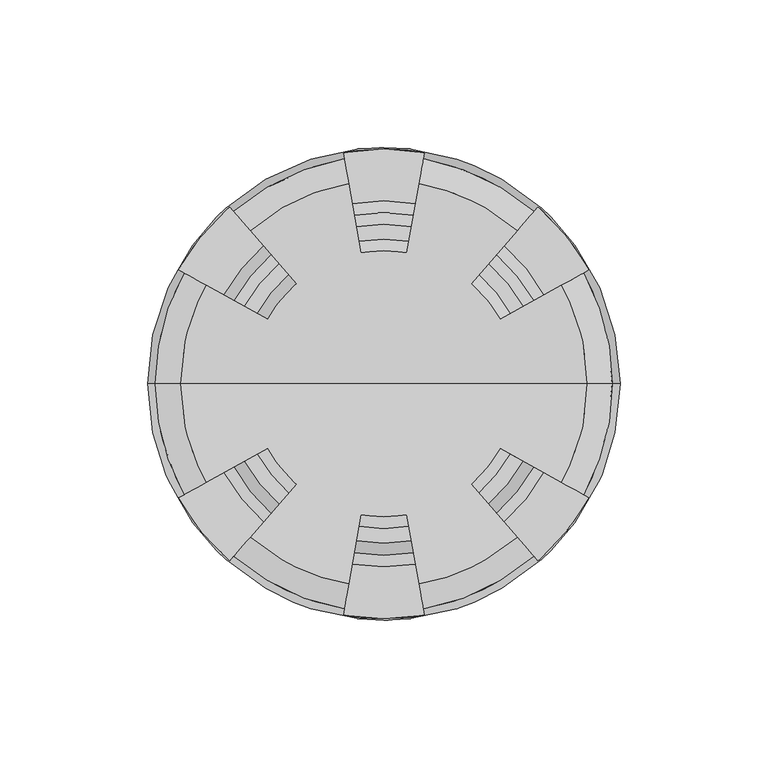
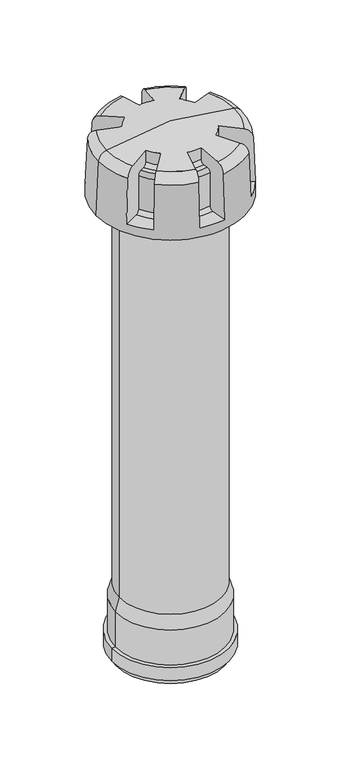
"""IFC4 building model written with IfcOpenShell, lengths in millimetres: proxy geometry, GRAF Deaeration end DN110 : GRAF Deaeration end DN110."""

from ifc_helpers import new_model, si_unit, point, frame, origin, place, context, project, spatial, polyline, circle_curve, ellipse_curve, trimmed, source, transform, mapped, element, save
from ifc_brep_helpers import plane_surface, cylinder_surface, revolved_surface, advanced_brep


def specialty_equipment_93227a62(model_context):
    return source(origin(), model_context, "Body", "AdvancedBrep", [
        advanced_brep(
        [(-1157.5, 0.0, 0.0), (-1098.5, 0.0, 0.0), (-1216.5, 0.0, 0.0), (-1088.7158511, 0.0, 590.173693), (-1157.5, 0.0, 600.0), (-1226.2841489, 0.0, 590.173693), (-1217.6599722, -33.3472171, 590.173693), (-1196.8578868, -21.8164329, 593.5714286), (-1187.0226563, -33.9619311, 593.5714286), (-1202.626462, -51.9120562, 590.173693), (-1169.4442421, -67.7391631, 590.173693), (-1165.314168, -44.3163489, 593.5714286), (-1149.685832, -44.3163489, 593.5714286), (-1145.5557579, -67.7391631, 590.173693), (-1112.373538, -51.9120562, 590.173693), (-1127.9773437, -33.9619311, 593.5714286), (-1118.1421132, -21.8164329, 593.5714286), (-1097.3400278, -33.3472171, 590.173693), (-1097.3400278, 33.3472171, 590.173693), (-1118.1421132, 21.8164329, 593.5714286), (-1127.9773437, 33.9619311, 593.5714286), (-1112.373538, 51.9120562, 590.173693), (-1145.5557579, 67.7391631, 590.173693), (-1149.685832, 44.3163489, 593.5714286), (-1165.314168, 44.3163489, 593.5714286), (-1169.4442421, 67.7391631, 590.173693), (-1202.626462, 51.9120562, 590.173693), (-1187.0226563, 33.9619311, 593.5714286), (-1196.8578868, 21.8164329, 593.5714286), (-1217.6599722, 33.3472171, 590.173693), (-1080.1395031, 0.0, 580.7085703), (-1089.8389848, -37.5051131, 580.7085703), (-1234.8604969, 0.0, 580.7085703), (-1225.1610152, -37.5051131, 580.7085703), (-1208.2530525, -58.3847082, 580.7085703), (-1170.9335093, -76.1852172, 580.7085703), (-1144.0664907, -76.1852172, 580.7085703), (-1106.7469475, -58.3847082, 580.7085703), (-1089.8389848, 37.5051131, 580.7085703), (-1225.1610152, 37.5051131, 580.7085703), (-1208.2530525, 58.3847082, 580.7085703), (-1170.9335093, 76.1852172, 580.7085703), (-1106.7469475, 58.3847082, 580.7085703), (-1144.0664907, 76.1852172, 580.7085703), (-1237.5, 0.0, 520.0), (-1077.5, 0.0, 520.0), (-1087.9106929, -38.5739828, 530.0), (-1105.3005207, -60.0486318, 530.0), (-1143.683645, -78.356443, 530.0), (-1171.316355, -78.356443, 530.0), (-1209.6994793, -60.0486318, 530.0), (-1227.0893071, -38.5739828, 530.0), (-1227.0893071, 38.5739828, 530.0), (-1209.6994793, 60.0486318, 530.0), (-1171.316355, 78.356443, 530.0), (-1143.683645, 78.356443, 530.0), (-1105.3005207, 60.0486318, 530.0), (-1087.9106929, 38.5739828, 530.0), (-1212.5, 0.0, 520.0), (-1102.5, 0.0, 520.0), (-1212.5, 0.0, 76.0), (-1102.5, 0.0, 76.0), (-1216.5, 0.0, 61.0), (-1098.5, 0.0, 61.0), (-1216.5, 0.0, 21.0), (-1098.5, 0.0, 21.0), (-1220.5, 0.0, 21.0), (-1094.5, 0.0, 21.0), (-1220.5, 0.0, 6.0), (-1094.5, 0.0, 6.0), (-1216.5, 0.0, 6.0), (-1098.5, 0.0, 6.0), (-1198.1756598, 46.791994, 530.0), (-1195.5514237, 43.7731557, 534.0), (-1195.5514237, 43.7731557, 572.0), (-1192.9271876, 40.7543173, 576.0), (-1189.6468924, 36.9807694, 576.0), (-1187.0226563, 33.9619311, 580.0), (-1196.8578868, 21.8164329, 580.0), (-1200.3563656, 23.7556714, 576.0), (-1204.7294642, 26.1797195, 576.0), (-1208.227943, 28.118958, 572.0), (-1208.227943, 28.118958, 534.0), (-1211.7264218, 30.0581965, 530.0), (-1187.0226563, -33.9619311, 580.0), (-1189.6468924, -36.9807694, 576.0), (-1192.9271876, -40.7543173, 576.0), (-1195.5514237, -43.7731557, 572.0), (-1195.5514237, -43.7731557, 534.0), (-1198.1756598, -46.791994, 530.0), (-1211.7264218, -30.0581965, 530.0), (-1208.227943, -28.118958, 534.0), (-1208.227943, -28.118958, 572.0), (-1204.7294642, -26.1797195, 576.0), (-1200.3563656, -23.7556714, 576.0), (-1196.8578868, -21.8164329, 580.0), (-1149.685832, -44.3163489, 580.0), (-1148.9912393, -48.2555799, 576.0), (-1148.1229984, -53.1796187, 576.0), (-1147.4284057, -57.1188497, 572.0), (-1147.4284057, -57.1188497, 534.0), (-1146.733813, -61.0580807, 530.0), (-1168.266187, -61.0580807, 530.0), (-1167.5715943, -57.1188497, 534.0), (-1167.5715943, -57.1188497, 572.0), (-1166.8770016, -53.1796187, 576.0), (-1166.0087607, -48.2555799, 576.0), (-1165.314168, -44.3163489, 580.0), (-1118.1421132, -21.8164329, 580.0), (-1114.6436344, -23.7556714, 576.0), (-1110.2705358, -26.1797195, 576.0), (-1106.772057, -28.118958, 572.0), (-1106.772057, -28.118958, 534.0), (-1103.2735782, -30.0581965, 530.0), (-1116.8243402, -46.791994, 530.0), (-1119.4485763, -43.7731557, 534.0), (-1119.4485763, -43.7731557, 572.0), (-1122.0728124, -40.7543173, 576.0), (-1125.3531076, -36.9807694, 576.0), (-1127.9773437, -33.9619311, 580.0), (-1103.2735782, 30.0581965, 530.0), (-1106.772057, 28.118958, 534.0), (-1106.772057, 28.118958, 572.0), (-1110.2705358, 26.1797195, 576.0), (-1114.6436344, 23.7556714, 576.0), (-1118.1421132, 21.8164329, 580.0), (-1127.9773437, 33.9619311, 580.0), (-1125.3531076, 36.9807694, 576.0), (-1122.0728124, 40.7543173, 576.0), (-1119.4485763, 43.7731557, 572.0), (-1119.4485763, 43.7731557, 534.0), (-1116.8243402, 46.791994, 530.0), (-1146.733813, 61.0580807, 530.0), (-1147.4284057, 57.1188497, 534.0), (-1147.4284057, 57.1188497, 572.0), (-1148.1229984, 53.1796187, 576.0), (-1148.9912393, 48.2555799, 576.0), (-1149.685832, 44.3163489, 580.0), (-1165.314168, 44.3163489, 580.0), (-1166.0087607, 48.2555799, 576.0), (-1166.8770016, 53.1796187, 576.0), (-1167.5715943, 57.1188497, 572.0), (-1167.5715943, 57.1188497, 534.0), (-1168.266187, 61.0580807, 530.0)],
        [
            (0, 1),
            (1, 2, circle_curve(frame((-1157.5, 0.0, 0.0), z_axis=(0.0, 0.0, -1.0), x_axis=(1.0, 0.0, 0.0)), 59.0)),
            (2, 0),
            (2, 1, circle_curve(frame((-1157.5, 0.0, 0.0), z_axis=(0.0, 0.0, -1.0), x_axis=(1.0, 0.0, 0.0)), 59.0)),
            (3, 4),
            (4, 5),
            (5, 6, circle_curve(frame((-1157.5, 0.0, 590.173693), z_axis=(0.0, 0.0, 1.0), x_axis=(1.0, 0.0, 0.0)), 68.7841489)),
            (6, 7),
            (7, 8, circle_curve(frame((-1157.5, 0.0, 593.5714286), z_axis=(0.0, 0.0, 1.0), x_axis=(1.0, 0.0, 0.0)), 45.0)),
            (8, 9),
            (9, 10, circle_curve(frame((-1157.5, 0.0, 590.173693), z_axis=(0.0, 0.0, 1.0), x_axis=(1.0, 0.0, 0.0)), 68.7841489)),
            (10, 11),
            (11, 12, circle_curve(frame((-1157.5, 0.0, 593.5714286), z_axis=(0.0, 0.0, 1.0), x_axis=(1.0, 0.0, 0.0)), 45.0)),
            (12, 13),
            (13, 14, circle_curve(frame((-1157.5, 0.0, 590.173693), z_axis=(0.0, 0.0, 1.0), x_axis=(1.0, 0.0, 0.0)), 68.7841489)),
            (14, 15),
            (15, 16, circle_curve(frame((-1157.5, 0.0, 593.5714286), z_axis=(0.0, 0.0, 1.0), x_axis=(1.0, 0.0, 0.0)), 45.0)),
            (16, 17),
            (17, 3, circle_curve(frame((-1157.5, 0.0, 590.173693), z_axis=(0.0, 0.0, 1.0), x_axis=(1.0, 0.0, 0.0)), 68.7841489)),
            (3, 18, circle_curve(frame((-1157.5, 0.0, 590.173693), z_axis=(0.0, 0.0, 1.0), x_axis=(1.0, 0.0, 0.0)), 68.7841489)),
            (18, 19),
            (19, 20, circle_curve(frame((-1157.5, 0.0, 593.5714286), z_axis=(0.0, 0.0, 1.0), x_axis=(1.0, 0.0, 0.0)), 45.0)),
            (20, 21),
            (21, 22, circle_curve(frame((-1157.5, 0.0, 590.173693), z_axis=(0.0, 0.0, 1.0), x_axis=(1.0, 0.0, 0.0)), 68.7841489)),
            (22, 23),
            (23, 24, circle_curve(frame((-1157.5, 0.0, 593.5714286), z_axis=(0.0, 0.0, 1.0), x_axis=(1.0, 0.0, 0.0)), 45.0)),
            (24, 25),
            (25, 26, circle_curve(frame((-1157.5, 0.0, 590.173693), z_axis=(0.0, 0.0, 1.0), x_axis=(1.0, 0.0, 0.0)), 68.7841489)),
            (26, 27),
            (27, 28, circle_curve(frame((-1157.5, 0.0, 593.5714286), z_axis=(0.0, 0.0, 1.0), x_axis=(1.0, 0.0, 0.0)), 45.0)),
            (28, 29),
            (29, 5, circle_curve(frame((-1157.5, 0.0, 590.173693), z_axis=(0.0, 0.0, 1.0), x_axis=(1.0, 0.0, 0.0)), 68.7841489)),
            (30, 3, circle_curve(frame((-1090.1300646, 0.0, 580.2741981), z_axis=(0.0, -1.0, 0.0), x_axis=(0.9990561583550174, 0.0, 0.043437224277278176)), 10.0)),
            (17, 31, circle_curve(frame((-1098.5769269, -32.6615928, 580.2741981), z_axis=(0.4848096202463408, 0.8746197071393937, 0.0), x_axis=(0.8737942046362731, -0.48435203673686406, 0.043437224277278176)), 10.0)),
            (31, 30, circle_curve(frame((-1157.5, 0.0, 580.7085703), z_axis=(0.0, 0.0, 1.0), x_axis=(1.0, 0.0, 0.0)), 77.3604969)),
            (5, 32, circle_curve(frame((-1224.8699354, 0.0, 580.2741981), z_axis=(0.0, -1.0, 0.0), x_axis=(-0.9990561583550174, 0.0, 0.043437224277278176)), 10.0)),
            (32, 33, circle_curve(frame((-1157.5, 0.0, 580.7085703), z_axis=(0.0, 0.0, 1.0), x_axis=(1.0, 0.0, 0.0)), 77.3604969)),
            (33, 6, circle_curve(frame((-1216.4230731, -32.6615928, 580.2741981), z_axis=(-0.4848096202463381, 0.8746197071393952, 0.0), x_axis=(-0.8737942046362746, -0.4843520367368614, 0.043437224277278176)), 10.0)),
            (9, 34, circle_curve(frame((-1201.6986544, -50.8447356, 580.2741981), z_axis=(0.7547095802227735, -0.6560590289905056, 0.0), x_axis=(-0.6554398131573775, -0.7539972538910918, 0.043437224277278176)), 10.0)),
            (34, 35, circle_curve(frame((-1157.5, 0.0, 580.7085703), z_axis=(0.0, 0.0, 1.0), x_axis=(1.0, 0.0, 0.0)), 77.3604969)),
            (35, 10, circle_curve(frame((-1169.1986665, -66.3464347, 580.2741981), z_axis=(-0.984807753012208, 0.17364817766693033, 0.0), x_axis=(-0.17348428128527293, -0.9838782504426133, 0.043437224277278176)), 10.0)),
            (13, 36, circle_curve(frame((-1145.8013335, -66.3464347, 580.2741981), z_axis=(0.9848077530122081, 0.17364817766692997, 0.0), x_axis=(0.17348428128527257, -0.9838782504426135, 0.043437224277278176)), 10.0)),
            (36, 37, circle_curve(frame((-1157.5, 0.0, 580.7085703), z_axis=(0.0, 0.0, 1.0), x_axis=(1.0, 0.0, 0.0)), 77.3604969)),
            (37, 14, circle_curve(frame((-1113.3013456, -50.8447356, 580.2741981), z_axis=(-0.7547095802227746, -0.6560590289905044, 0.0), x_axis=(0.6554398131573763, -0.753997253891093, 0.043437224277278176)), 10.0)),
            (30, 38, circle_curve(frame((-1157.5, 0.0, 580.7085703), z_axis=(0.0, 0.0, 1.0), x_axis=(1.0, 0.0, 0.0)), 77.3604969)),
            (38, 18, circle_curve(frame((-1098.5769269, 32.6615928, 580.2741981), z_axis=(0.48480962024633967, -0.8746197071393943, 0.0), x_axis=(0.8737942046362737, 0.48435203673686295, 0.043437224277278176)), 10.0)),
            (29, 39, circle_curve(frame((-1216.4230731, 32.6615928, 580.2741981), z_axis=(-0.48480962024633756, -0.8746197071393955, 0.0), x_axis=(-0.8737942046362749, 0.48435203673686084, 0.043437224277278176)), 10.0)),
            (39, 32, circle_curve(frame((-1157.5, 0.0, 580.7085703), z_axis=(0.0, 0.0, 1.0), x_axis=(1.0, 0.0, 0.0)), 77.3604969)),
            (40, 26, circle_curve(frame((-1201.6986544, 50.8447356, 580.2741981), z_axis=(0.754709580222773, 0.6560590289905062, 0.0), x_axis=(-0.6554398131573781, 0.7539972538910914, 0.043437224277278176)), 10.0)),
            (25, 41, circle_curve(frame((-1169.1986665, 66.3464347, 580.2741981), z_axis=(-0.9848077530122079, -0.1736481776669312, 0.0), x_axis=(-0.1734842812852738, 0.9838782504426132, 0.043437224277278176)), 10.0)),
            (41, 40, circle_curve(frame((-1157.5, 0.0, 580.7085703), z_axis=(0.0, 0.0, 1.0), x_axis=(1.0, 0.0, 0.0)), 77.3604969)),
            (21, 42, circle_curve(frame((-1113.3013456, 50.8447356, 580.2741981), z_axis=(-0.7547095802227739, 0.656059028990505, 0.0), x_axis=(0.655439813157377, 0.7539972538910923, 0.043437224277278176)), 10.0)),
            (42, 43, circle_curve(frame((-1157.5, 0.0, 580.7085703), z_axis=(0.0, 0.0, 1.0), x_axis=(1.0, 0.0, 0.0)), 77.3604969)),
            (43, 22, circle_curve(frame((-1145.8013335, 66.3464347, 580.2741981), z_axis=(0.9848077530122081, -0.17364817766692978, 0.0), x_axis=(0.17348428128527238, 0.9838782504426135, 0.043437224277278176)), 10.0)),
            (44, 45, circle_curve(frame((-1157.5, 0.0, 520.0), z_axis=(0.0, 0.0, 1.0), x_axis=(1.0, 0.0, 0.0)), 80.0)),
            (45, 30),
            (31, 46),
            (46, 47, circle_curve(frame((-1157.5, 0.0, 530.0), z_axis=(0.0, 0.0, -1.0), x_axis=(1.0, 0.0, 0.0)), 79.5652174)),
            (47, 37),
            (36, 48),
            (48, 49, circle_curve(frame((-1157.5, 0.0, 530.0), z_axis=(0.0, 0.0, -1.0), x_axis=(1.0, 0.0, 0.0)), 79.5652174)),
            (49, 35),
            (34, 50),
            (50, 51, circle_curve(frame((-1157.5, 0.0, 530.0), z_axis=(0.0, 0.0, -1.0), x_axis=(1.0, 0.0, 0.0)), 79.5652174)),
            (51, 33),
            (32, 44),
            (45, 44, circle_curve(frame((-1157.5, 0.0, 520.0), z_axis=(0.0, 0.0, 1.0), x_axis=(1.0, 0.0, 0.0)), 80.0)),
            (39, 52),
            (52, 53, circle_curve(frame((-1157.5, 0.0, 530.0), z_axis=(0.0, 0.0, -1.0), x_axis=(1.0, 0.0, 0.0)), 79.5652174)),
            (53, 40),
            (41, 54),
            (54, 55, circle_curve(frame((-1157.5, 0.0, 530.0), z_axis=(0.0, 0.0, -1.0), x_axis=(1.0, 0.0, 0.0)), 79.5652174)),
            (55, 43),
            (42, 56),
            (56, 57, circle_curve(frame((-1157.5, 0.0, 530.0), z_axis=(0.0, 0.0, -1.0), x_axis=(1.0, 0.0, 0.0)), 79.5652174)),
            (57, 38),
            (44, 58),
            (58, 59, circle_curve(frame((-1157.5, 0.0, 520.0), z_axis=(0.0, 0.0, 1.0), x_axis=(1.0, 0.0, 0.0)), 55.0)),
            (59, 45),
            (59, 58, circle_curve(frame((-1157.5, 0.0, 520.0), z_axis=(0.0, 0.0, 1.0), x_axis=(1.0, 0.0, 0.0)), 55.0)),
            (58, 60),
            (60, 61, circle_curve(frame((-1157.5, 0.0, 76.0), z_axis=(0.0, 0.0, 1.0), x_axis=(1.0, 0.0, 0.0)), 55.0)),
            (61, 59),
            (61, 60, circle_curve(frame((-1157.5, 0.0, 76.0), z_axis=(0.0, 0.0, 1.0), x_axis=(1.0, 0.0, 0.0)), 55.0)),
            (60, 62),
            (62, 63, circle_curve(frame((-1157.5, 0.0, 61.0), z_axis=(0.0, 0.0, 1.0), x_axis=(1.0, 0.0, 0.0)), 59.0)),
            (63, 61),
            (63, 62, circle_curve(frame((-1157.5, 0.0, 61.0), z_axis=(0.0, 0.0, 1.0), x_axis=(1.0, 0.0, 0.0)), 59.0)),
            (62, 64),
            (64, 65, circle_curve(frame((-1157.5, 0.0, 21.0), z_axis=(0.0, 0.0, 1.0), x_axis=(1.0, 0.0, 0.0)), 59.0)),
            (65, 63),
            (65, 64, circle_curve(frame((-1157.5, 0.0, 21.0), z_axis=(0.0, 0.0, 1.0), x_axis=(1.0, 0.0, 0.0)), 59.0)),
            (64, 66),
            (66, 67, circle_curve(frame((-1157.5, 0.0, 21.0), z_axis=(0.0, 0.0, 1.0), x_axis=(1.0, 0.0, 0.0)), 63.0)),
            (67, 65),
            (67, 66, circle_curve(frame((-1157.5, 0.0, 21.0), z_axis=(0.0, 0.0, 1.0), x_axis=(1.0, 0.0, 0.0)), 63.0)),
            (66, 68),
            (68, 69, circle_curve(frame((-1157.5, 0.0, 6.0), z_axis=(0.0, 0.0, 1.0), x_axis=(1.0, 0.0, 0.0)), 63.0)),
            (69, 67),
            (69, 68, circle_curve(frame((-1157.5, 0.0, 6.0), z_axis=(0.0, 0.0, 1.0), x_axis=(1.0, 0.0, 0.0)), 63.0)),
            (68, 70),
            (70, 71, circle_curve(frame((-1157.5, 0.0, 6.0), z_axis=(0.0, 0.0, 1.0), x_axis=(1.0, 0.0, 0.0)), 59.0)),
            (71, 69),
            (71, 70, circle_curve(frame((-1157.5, 0.0, 6.0), z_axis=(0.0, 0.0, 1.0), x_axis=(1.0, 0.0, 0.0)), 59.0)),
            (1, 71),
            (70, 2),
            (72, 73, circle_curve(frame((-1198.1756598, 46.791994, 534.0), z_axis=(-0.7547095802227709, -0.6560590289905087, 0.0), x_axis=(0.6560590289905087, -0.7547095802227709, 1.5397016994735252e-12)), 4.0)),
            (73, 74),
            (74, 75, circle_curve(frame((-1192.9271876, 40.7543173, 572.0), z_axis=(0.7547095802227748, 0.6560590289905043, 0.0), x_axis=(1.0110509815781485e-12, -1.159729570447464e-12, 1.0)), 4.0)),
            (75, 76),
            (76, 77, circle_curve(frame((-1189.6468924, 36.9807694, 580.0), z_axis=(-0.7547095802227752, -0.6560590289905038, 0.0), x_axis=(0.6560590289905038, -0.7547095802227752, 1.5058621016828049e-12)), 4.0)),
            (77, 27),
            (53, 72),
            (78, 79, circle_curve(frame((-1200.3563656, 23.7556714, 580.0), z_axis=(0.4848096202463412, 0.8746197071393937, 0.0), x_axis=(0.8746197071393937, -0.4848096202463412, 1.5058621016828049e-12)), 4.0)),
            (79, 80),
            (80, 81, circle_curve(frame((-1204.7294642, 26.1797195, 572.0), z_axis=(-0.4848096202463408, -0.8746197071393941, 0.0), x_axis=(1.3467280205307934e-12, 0.0, 1.0)), 4.0)),
            (81, 82),
            (82, 83, circle_curve(frame((-1211.7264218, 30.0581965, 534.0), z_axis=(0.48480962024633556, 0.8746197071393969, 0.0), x_axis=(0.8746197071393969, -0.48480962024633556, 1.5397016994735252e-12)), 4.0)),
            (83, 52),
            (28, 78),
            (76, 79, circle_curve(frame((-1157.5, 0.0, 576.0), z_axis=(0.0, 0.0, 1.0), x_axis=(-0.6560590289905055, 0.7547095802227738, 0.0)), 49.0)),
            (78, 77, circle_curve(frame((-1157.5, 0.0, 580.0), z_axis=(0.0, 0.0, -1.0), x_axis=(-0.6560590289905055, 0.7547095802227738, 0.0)), 45.0)),
            (75, 80, circle_curve(frame((-1157.5, 0.0, 576.0), z_axis=(0.0, 0.0, 1.0), x_axis=(-0.6560590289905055, 0.7547095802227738, 0.0)), 54.0)),
            (74, 81, circle_curve(frame((-1157.5, 0.0, 572.0), z_axis=(0.0, 0.0, 1.0), x_axis=(-0.6560590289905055, 0.7547095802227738, 0.0)), 58.0)),
            (73, 82, circle_curve(frame((-1157.5, 0.0, 534.0), z_axis=(0.0, 0.0, 1.0), x_axis=(-0.6560590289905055, 0.7547095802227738, 0.0)), 58.0)),
            (72, 83, circle_curve(frame((-1157.5, 0.0, 530.0), z_axis=(0.0, 0.0, 1.0), x_axis=(-0.6560590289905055, 0.7547095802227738, 0.0)), 62.0)),
            (84, 85, circle_curve(frame((-1189.6468924, -36.9807694, 580.0), z_axis=(-0.7547095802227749, 0.6560590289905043, 0.0), x_axis=(0.0, -1.1202838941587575e-12, -1.0)), 4.0)),
            (85, 86),
            (86, 87, circle_curve(frame((-1192.9271876, -40.7543173, 572.0), z_axis=(0.7547095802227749, -0.6560590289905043, 0.0), x_axis=(-0.6560590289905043, -0.7547095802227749, -1.5227819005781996e-12)), 4.0)),
            (87, 88),
            (88, 89, circle_curve(frame((-1198.1756598, -46.791994, 534.0), z_axis=(-0.7547095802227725, 0.656059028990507, 0.0), x_axis=(-1.0095819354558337e-12, -1.1680609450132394e-12, -1.0)), 4.0)),
            (89, 50),
            (8, 84),
            (90, 91, circle_curve(frame((-1211.7264218, -30.0581965, 534.0), z_axis=(0.4848096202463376, -0.8746197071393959, 0.0), x_axis=(-1.3481970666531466e-12, 0.0, -1.0)), 4.0)),
            (91, 92),
            (92, 93, circle_curve(frame((-1204.7294642, -26.1797195, 572.0), z_axis=(-0.4848096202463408, 0.874619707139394, 0.0), x_axis=(-0.874619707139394, -0.4848096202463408, -1.5227819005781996e-12)), 4.0)),
            (93, 94),
            (94, 95, circle_curve(frame((-1200.3563656, -23.7556714, 580.0), z_axis=(0.4848096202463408, -0.874619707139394, 0.0), x_axis=(-1.300420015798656e-12, 0.0, -1.0)), 4.0)),
            (95, 7),
            (51, 90),
            (89, 90, circle_curve(frame((-1157.5, 0.0, 530.0), z_axis=(0.0, 0.0, -1.0), x_axis=(-0.6560590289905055, -0.7547095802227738, 0.0)), 62.0)),
            (88, 91, circle_curve(frame((-1157.5, 0.0, 534.0), z_axis=(0.0, 0.0, -1.0), x_axis=(-0.6560590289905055, -0.7547095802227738, 0.0)), 58.0)),
            (87, 92, circle_curve(frame((-1157.5, 0.0, 572.0), z_axis=(0.0, 0.0, -1.0), x_axis=(-0.6560590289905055, -0.7547095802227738, 0.0)), 58.0)),
            (86, 93, circle_curve(frame((-1157.5, 0.0, 576.0), z_axis=(0.0, 0.0, -1.0), x_axis=(-0.6560590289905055, -0.7547095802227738, 0.0)), 54.0)),
            (85, 94, circle_curve(frame((-1157.5, 0.0, 576.0), z_axis=(0.0, 0.0, -1.0), x_axis=(-0.6560590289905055, -0.7547095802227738, 0.0)), 49.0)),
            (84, 95, circle_curve(frame((-1157.5, 0.0, 580.0), z_axis=(0.0, 0.0, -1.0), x_axis=(-0.6560590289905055, -0.7547095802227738, 0.0)), 45.0)),
            (96, 97, circle_curve(frame((-1148.9912393, -48.2555799, 580.0), z_axis=(-0.9848077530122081, -0.17364817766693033, 0.0), x_axis=(0.0, -1.4642390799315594e-12, -1.0)), 4.0)),
            (97, 98),
            (98, 99, circle_curve(frame((-1148.1229984, -53.1796187, 572.0), z_axis=(0.9848077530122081, 0.17364817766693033, 0.0), x_axis=(0.17364817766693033, -0.9848077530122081, -1.5227819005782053e-12)), 4.0)),
            (99, 100),
            (100, 101, circle_curve(frame((-1146.733813, -61.0580807, 534.0), z_axis=(-0.9848077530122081, -0.17364817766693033, 0.0), x_axis=(0.0, -1.5183930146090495e-12, -1.0)), 4.0)),
            (101, 48),
            (12, 96),
            (102, 103, circle_curve(frame((-1168.266187, -61.0580807, 534.0), z_axis=(0.9848077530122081, -0.17364817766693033, 0.0), x_axis=(0.0, -1.5183930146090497e-12, -1.0)), 4.0)),
            (103, 104),
            (104, 105, circle_curve(frame((-1166.8770016, -53.1796187, 572.0), z_axis=(-0.9848077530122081, 0.17364817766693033, 0.0), x_axis=(-0.17364817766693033, -0.9848077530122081, -1.5227819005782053e-12)), 4.0)),
            (105, 106),
            (106, 107, circle_curve(frame((-1166.0087607, -48.2555799, 580.0), z_axis=(0.9848077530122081, -0.17364817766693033, 0.0), x_axis=(0.0, -1.4642390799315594e-12, -1.0)), 4.0)),
            (107, 11),
            (49, 102),
            (101, 102, circle_curve(frame((-1157.5, 0.0, 530.0), z_axis=(0.0, 0.0, -1.0), x_axis=(0.17364817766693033, -0.9848077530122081, 0.0)), 62.0)),
            (100, 103, circle_curve(frame((-1157.5, 0.0, 534.0), z_axis=(0.0, 0.0, -1.0), x_axis=(0.17364817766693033, -0.9848077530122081, 0.0)), 58.0)),
            (99, 104, circle_curve(frame((-1157.5, 0.0, 572.0), z_axis=(0.0, 0.0, -1.0), x_axis=(0.17364817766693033, -0.9848077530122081, 0.0)), 58.0)),
            (98, 105, circle_curve(frame((-1157.5, 0.0, 576.0), z_axis=(0.0, 0.0, -1.0), x_axis=(0.17364817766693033, -0.9848077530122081, 0.0)), 54.0)),
            (97, 106, circle_curve(frame((-1157.5, 0.0, 576.0), z_axis=(0.0, 0.0, -1.0), x_axis=(0.17364817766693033, -0.9848077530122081, 0.0)), 49.0)),
            (96, 107, circle_curve(frame((-1157.5, 0.0, 580.0), z_axis=(0.0, 0.0, -1.0), x_axis=(0.17364817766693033, -0.9848077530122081, 0.0)), 45.0)),
            (108, 109, circle_curve(frame((-1114.6436344, -23.7556714, 580.0), z_axis=(-0.484809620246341, -0.8746197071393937, 0.0), x_axis=(1.3004200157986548e-12, 0.0, -1.0)), 4.0)),
            (109, 110),
            (110, 111, circle_curve(frame((-1110.2705358, -26.1797195, 572.0), z_axis=(0.484809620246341, 0.8746197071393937, 0.0), x_axis=(0.8746197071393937, -0.484809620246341, -1.5227819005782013e-12)), 4.0)),
            (111, 112),
            (112, 113, circle_curve(frame((-1103.2735782, -30.0581965, 534.0), z_axis=(-0.48480962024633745, -0.8746197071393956, 0.0), x_axis=(1.3481970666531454e-12, 0.0, -1.0)), 4.0)),
            (113, 46),
            (16, 108),
            (114, 115, circle_curve(frame((-1116.8243402, -46.791994, 534.0), z_axis=(0.7547095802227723, 0.656059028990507, 0.0), x_axis=(1.0095819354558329e-12, -1.1680609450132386e-12, -1.0)), 4.0)),
            (115, 116),
            (116, 117, circle_curve(frame((-1122.0728124, -40.7543173, 572.0), z_axis=(-0.754709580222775, -0.656059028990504, 0.0), x_axis=(0.656059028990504, -0.754709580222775, -1.5227819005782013e-12)), 4.0)),
            (117, 118),
            (118, 119, circle_curve(frame((-1125.3531076, -36.9807694, 580.0), z_axis=(0.754709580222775, 0.656059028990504, 0.0), x_axis=(0.0, -1.1202838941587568e-12, -1.0)), 4.0)),
            (119, 15),
            (47, 114),
            (113, 114, circle_curve(frame((-1157.5, 0.0, 530.0), z_axis=(0.0, 0.0, -1.0), x_axis=(0.8746197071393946, -0.48480962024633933, 0.0)), 62.0)),
            (112, 115, circle_curve(frame((-1157.5, 0.0, 534.0), z_axis=(0.0, 0.0, -1.0), x_axis=(0.8746197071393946, -0.48480962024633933, 0.0)), 58.0)),
            (111, 116, circle_curve(frame((-1157.5, 0.0, 572.0), z_axis=(0.0, 0.0, -1.0), x_axis=(0.8746197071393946, -0.48480962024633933, 0.0)), 58.0)),
            (110, 117, circle_curve(frame((-1157.5, 0.0, 576.0), z_axis=(0.0, 0.0, -1.0), x_axis=(0.8746197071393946, -0.48480962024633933, 0.0)), 54.0)),
            (109, 118, circle_curve(frame((-1157.5, 0.0, 576.0), z_axis=(0.0, 0.0, -1.0), x_axis=(0.8746197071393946, -0.48480962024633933, 0.0)), 49.0)),
            (108, 119, circle_curve(frame((-1157.5, 0.0, 580.0), z_axis=(0.0, 0.0, -1.0), x_axis=(0.8746197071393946, -0.48480962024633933, 0.0)), 45.0)),
            (120, 121, circle_curve(frame((-1103.2735782, 30.0581965, 534.0), z_axis=(-0.48480962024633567, 0.8746197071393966, 0.0), x_axis=(-0.8746197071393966, -0.48480962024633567, 1.5397016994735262e-12)), 4.0)),
            (121, 122),
            (122, 123, circle_curve(frame((-1110.2705358, 26.1797195, 572.0), z_axis=(0.4848096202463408, -0.8746197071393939, 0.0), x_axis=(-1.3467280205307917e-12, 0.0, 1.0)), 4.0)),
            (123, 124),
            (124, 125, circle_curve(frame((-1114.6436344, 23.7556714, 580.0), z_axis=(-0.48480962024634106, 0.8746197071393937, 0.0), x_axis=(-0.8746197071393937, -0.48480962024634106, 1.5058621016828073e-12)), 4.0)),
            (125, 19),
            (57, 120),
            (126, 127, circle_curve(frame((-1125.3531076, 36.9807694, 580.0), z_axis=(0.754709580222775, -0.656059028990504, 0.0), x_axis=(-0.656059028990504, -0.754709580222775, 1.5058621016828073e-12)), 4.0)),
            (127, 128),
            (128, 129, circle_curve(frame((-1122.0728124, 40.7543173, 572.0), z_axis=(-0.7547095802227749, 0.6560590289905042, 0.0), x_axis=(-1.0110509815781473e-12, -1.1597295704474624e-12, 1.0)), 4.0)),
            (129, 130),
            (130, 131, circle_curve(frame((-1116.8243402, 46.791994, 534.0), z_axis=(0.754709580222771, -0.6560590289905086, 0.0), x_axis=(-0.6560590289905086, -0.754709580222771, 1.5397016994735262e-12)), 4.0)),
            (131, 56),
            (20, 126),
            (124, 127, circle_curve(frame((-1157.5, 0.0, 576.0), z_axis=(0.0, 0.0, 1.0), x_axis=(0.8746197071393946, 0.48480962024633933, 0.0)), 49.0)),
            (126, 125, circle_curve(frame((-1157.5, 0.0, 580.0), z_axis=(0.0, 0.0, -1.0), x_axis=(0.8746197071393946, 0.48480962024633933, 0.0)), 45.0)),
            (123, 128, circle_curve(frame((-1157.5, 0.0, 576.0), z_axis=(0.0, 0.0, 1.0), x_axis=(0.8746197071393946, 0.48480962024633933, 0.0)), 54.0)),
            (122, 129, circle_curve(frame((-1157.5, 0.0, 572.0), z_axis=(0.0, 0.0, 1.0), x_axis=(0.8746197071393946, 0.48480962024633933, 0.0)), 58.0)),
            (121, 130, circle_curve(frame((-1157.5, 0.0, 534.0), z_axis=(0.0, 0.0, 1.0), x_axis=(0.8746197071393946, 0.48480962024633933, 0.0)), 58.0)),
            (120, 131, circle_curve(frame((-1157.5, 0.0, 530.0), z_axis=(0.0, 0.0, 1.0), x_axis=(0.8746197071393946, 0.48480962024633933, 0.0)), 62.0)),
            (132, 133, circle_curve(frame((-1146.733813, 61.0580807, 534.0), z_axis=(-0.9848077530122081, 0.17364817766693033, 0.0), x_axis=(-0.17364817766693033, -0.9848077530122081, 1.5397016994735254e-12)), 4.0)),
            (133, 134),
            (134, 135, circle_curve(frame((-1148.1229984, 53.1796187, 572.0), z_axis=(0.9848077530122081, -0.17364817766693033, 0.0), x_axis=(0.0, -1.5163101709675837e-12, 1.0)), 4.0)),
            (135, 136),
            (136, 137, circle_curve(frame((-1148.9912393, 48.2555799, 580.0), z_axis=(-0.9848077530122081, 0.17364817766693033, 0.0), x_axis=(-0.17364817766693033, -0.9848077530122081, 1.5058621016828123e-12)), 4.0)),
            (137, 23),
            (55, 132),
            (138, 139, circle_curve(frame((-1166.0087607, 48.2555799, 580.0), z_axis=(0.9848077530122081, 0.17364817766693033, 0.0), x_axis=(0.17364817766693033, -0.9848077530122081, 1.5058621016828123e-12)), 4.0)),
            (139, 140),
            (140, 141, circle_curve(frame((-1166.8770016, 53.1796187, 572.0), z_axis=(-0.9848077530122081, -0.17364817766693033, 0.0), x_axis=(0.0, -1.516310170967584e-12, 1.0)), 4.0)),
            (141, 142),
            (142, 143, circle_curve(frame((-1168.266187, 61.0580807, 534.0), z_axis=(0.9848077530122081, 0.17364817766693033, 0.0), x_axis=(0.17364817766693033, -0.9848077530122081, 1.5397016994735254e-12)), 4.0)),
            (143, 54),
            (24, 138),
            (136, 139, circle_curve(frame((-1157.5, 0.0, 576.0), z_axis=(0.0, 0.0, 1.0), x_axis=(0.17364817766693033, 0.9848077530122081, 0.0)), 49.0)),
            (138, 137, circle_curve(frame((-1157.5, 0.0, 580.0), z_axis=(0.0, 0.0, -1.0), x_axis=(0.17364817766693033, 0.9848077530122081, 0.0)), 45.0)),
            (135, 140, circle_curve(frame((-1157.5, 0.0, 576.0), z_axis=(0.0, 0.0, 1.0), x_axis=(0.17364817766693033, 0.9848077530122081, 0.0)), 54.0)),
            (134, 141, circle_curve(frame((-1157.5, 0.0, 572.0), z_axis=(0.0, 0.0, 1.0), x_axis=(0.17364817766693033, 0.9848077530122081, 0.0)), 58.0)),
            (133, 142, circle_curve(frame((-1157.5, 0.0, 534.0), z_axis=(0.0, 0.0, 1.0), x_axis=(0.17364817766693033, 0.9848077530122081, 0.0)), 58.0)),
            (132, 143, circle_curve(frame((-1157.5, 0.0, 530.0), z_axis=(0.0, 0.0, 1.0), x_axis=(0.17364817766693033, 0.9848077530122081, 0.0)), 62.0)),
        ],
        [
            plane_surface(frame((-1157.5, 0.0, 0.0), z_axis=(0.0, 0.0, -1.0), x_axis=(1.0, 0.0, 0.0))),
            revolved_surface(polyline([(-1157.5, 0.0, 600.0), (-1088.7158511, 0.0, 590.173693)]), (-1157.5, 0.0, 600.0), (0.0, 0.0, -1.0)),
            revolved_surface(trimmed(ellipse_curve(frame((-1090.1300646, 0.0, 580.2741981), z_axis=(0.0, 1.0, 0.0), x_axis=(0.9990561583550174, 0.0, 0.043437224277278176)), 10.0, 10.0), [point((-1088.7158511, 0.0, 590.173693))], [point((-1080.1395031, 0.0, 580.7085703))], True, "CARTESIAN"), (-1157.5, 0.0, 600.0), (0.0, 0.0, -1.0)),
            revolved_surface(polyline([(-1080.1395031, 0.0, 580.7085703), (-1077.5, 0.0, 520.0)]), (-1157.5, 0.0, 600.0), (0.0, 0.0, -1.0)),
            plane_surface(frame((-1157.5, 0.0, 520.0), z_axis=(0.0, 0.0, -1.0), x_axis=(1.0, 0.0, 0.0))),
            cylinder_surface(frame((-1157.5, 0.0, 600.0), z_axis=(0.0, 0.0, -1.0), x_axis=(1.0, 0.0, 0.0)), 55.0),
            revolved_surface(polyline([(-1102.5, 0.0, 76.0), (-1098.5, 0.0, 61.0)]), (-1157.5, 0.0, 600.0), (0.0, 0.0, -1.0)),
            cylinder_surface(frame((-1157.5, 0.0, 600.0), z_axis=(0.0, 0.0, -1.0), x_axis=(1.0, 0.0, 0.0)), 59.0),
            plane_surface(frame((-1157.5, 0.0, 21.0), z_axis=(0.0, 0.0, 1.0), x_axis=(1.0, 0.0, 0.0))),
            cylinder_surface(frame((-1157.5, 0.0, 600.0), z_axis=(0.0, 0.0, -1.0), x_axis=(1.0, 0.0, 0.0)), 63.0),
            plane_surface(frame((-1157.5, 0.0, 6.0), z_axis=(0.0, 0.0, -1.0), x_axis=(1.0, 0.0, 0.0))),
            plane_surface(frame((-1157.5, 0.0, -50.0), z_axis=(-0.7547095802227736, -0.6560590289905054, 0.0), x_axis=(-0.6560590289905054, 0.7547095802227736, 0.0))),
            plane_surface(frame((-1157.5, 0.0, -50.0), z_axis=(0.4848096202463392, 0.8746197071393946, 0.0), x_axis=(-0.8746197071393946, 0.4848096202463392, 0.0))),
            revolved_surface(trimmed(ellipse_curve(frame((-1189.6468924, 36.9807694, 580.0), z_axis=(-0.7547095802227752, -0.6560590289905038, 0.0), x_axis=(0.6560590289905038, -0.7547095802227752, 1.5058621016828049e-12)), 4.0, 4.0), [point((-1189.6468924, 36.9807694, 576.0))], [point((-1187.0226563, 33.9619311, 580.0))], True, "CARTESIAN"), (-1157.5, 0.0, -50.0), (0.0, 0.0, 1.0)),
            plane_surface(frame((-1157.5, 0.0, 576.0), z_axis=(0.0, 0.0, 1.0), x_axis=(-0.6560590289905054, 0.7547095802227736, 0.0))),
            revolved_surface(trimmed(ellipse_curve(frame((-1192.9271876, 40.7543173, 572.0), z_axis=(0.7547095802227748, 0.6560590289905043, 0.0), x_axis=(1.0110509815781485e-12, -1.159729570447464e-12, 1.0)), 4.0, 4.0), [point((-1195.5514237, 43.7731557, 572.0))], [point((-1192.9271876, 40.7543173, 576.0))], True, "CARTESIAN"), (-1157.5, 0.0, -50.0), (0.0, 0.0, 1.0)),
            cylinder_surface(frame((-1157.5, 0.0, -50.0), z_axis=(0.0, 0.0, 1.0), x_axis=(-0.6560590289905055, 0.7547095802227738, 0.0)), 58.0),
            revolved_surface(trimmed(ellipse_curve(frame((-1198.1756598, 46.791994, 534.0), z_axis=(-0.7547095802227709, -0.6560590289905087, 0.0), x_axis=(0.6560590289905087, -0.7547095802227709, 1.5397016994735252e-12)), 4.0, 4.0), [point((-1198.1756598, 46.791994, 530.0))], [point((-1195.5514237, 43.7731557, 534.0))], True, "CARTESIAN"), (-1157.5, 0.0, -50.0), (0.0, 0.0, 1.0)),
            plane_surface(frame((-1157.5, 0.0, 530.0), z_axis=(0.0, 0.0, 1.0), x_axis=(-0.6560590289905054, 0.7547095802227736, 0.0))),
            cylinder_surface(frame((-1157.5, 0.0, -50.0), z_axis=(0.0, 0.0, 1.0), x_axis=(-0.6560590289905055, 0.7547095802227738, 0.0)), 45.0),
            plane_surface(frame((-1157.5, 0.0, 50.0), z_axis=(-0.7547095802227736, 0.6560590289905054, 0.0), x_axis=(-0.6560590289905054, -0.7547095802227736, 0.0))),
            plane_surface(frame((-1157.5, 0.0, 50.0), z_axis=(0.4848096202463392, -0.8746197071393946, 0.0), x_axis=(-0.8746197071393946, -0.4848096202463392, 0.0))),
            plane_surface(frame((-1157.5, 0.0, 530.0), z_axis=(0.0, 0.0, 1.0), x_axis=(-0.6560590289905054, -0.7547095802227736, 0.0))),
            revolved_surface(trimmed(ellipse_curve(frame((-1198.1756598, -46.791994, 534.0), z_axis=(-0.7547095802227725, 0.656059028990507, 0.0), x_axis=(-1.0095819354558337e-12, -1.1680609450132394e-12, -1.0)), 4.0, 4.0), [point((-1195.5514237, -43.7731557, 534.0))], [point((-1198.1756598, -46.791994, 530.0))], True, "CARTESIAN"), (-1157.5, 0.0, 50.0), (0.0, 0.0, -1.0)),
            cylinder_surface(frame((-1157.5, 0.0, 50.0), z_axis=(0.0, 0.0, -1.0), x_axis=(-0.6560590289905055, -0.7547095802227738, 0.0)), 58.0),
            revolved_surface(trimmed(ellipse_curve(frame((-1192.9271876, -40.7543173, 572.0), z_axis=(0.7547095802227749, -0.6560590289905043, 0.0), x_axis=(-0.6560590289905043, -0.7547095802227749, -1.5227819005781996e-12)), 4.0, 4.0), [point((-1192.9271876, -40.7543173, 576.0))], [point((-1195.5514237, -43.7731557, 572.0))], True, "CARTESIAN"), (-1157.5, 0.0, 50.0), (0.0, 0.0, -1.0)),
            plane_surface(frame((-1157.5, 0.0, 576.0), z_axis=(0.0, 0.0, 1.0), x_axis=(-0.6560590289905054, -0.7547095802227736, 0.0))),
            revolved_surface(trimmed(ellipse_curve(frame((-1189.6468924, -36.9807694, 580.0), z_axis=(-0.7547095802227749, 0.6560590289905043, 0.0), x_axis=(0.0, -1.1202838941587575e-12, -1.0)), 4.0, 4.0), [point((-1187.0226563, -33.9619311, 580.0))], [point((-1189.6468924, -36.9807694, 576.0))], True, "CARTESIAN"), (-1157.5, 0.0, 50.0), (0.0, 0.0, -1.0)),
            cylinder_surface(frame((-1157.5, 0.0, 50.0), z_axis=(0.0, 0.0, -1.0), x_axis=(-0.6560590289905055, -0.7547095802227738, 0.0)), 45.0),
            plane_surface(frame((-1157.5, 0.0, 50.0), z_axis=(-0.9848077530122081, -0.17364817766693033, 0.0), x_axis=(0.17364817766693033, -0.9848077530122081, 0.0))),
            plane_surface(frame((-1157.5, 0.0, 50.0), z_axis=(0.9848077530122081, -0.1736481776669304, 0.0), x_axis=(-0.1736481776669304, -0.9848077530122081, 0.0))),
            plane_surface(frame((-1157.5, 0.0, 530.0), z_axis=(0.0, 0.0, 1.0000000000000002), x_axis=(0.17364817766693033, -0.9848077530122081, 0.0))),
            revolved_surface(trimmed(ellipse_curve(frame((-1146.733813, -61.0580807, 534.0), z_axis=(-0.9848077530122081, -0.17364817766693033, 0.0), x_axis=(0.0, -1.5183930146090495e-12, -1.0)), 4.0, 4.0), [point((-1147.4284057, -57.1188497, 534.0))], [point((-1146.733813, -61.0580807, 530.0))], True, "CARTESIAN"), (-1157.5, 0.0, 50.0), (0.0, 0.0, -1.0)),
            cylinder_surface(frame((-1157.5, 0.0, 50.0), z_axis=(0.0, 0.0, -1.0), x_axis=(0.17364817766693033, -0.9848077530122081, 0.0)), 58.0),
            revolved_surface(trimmed(ellipse_curve(frame((-1148.1229984, -53.1796187, 572.0), z_axis=(0.9848077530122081, 0.17364817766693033, 0.0), x_axis=(0.17364817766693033, -0.9848077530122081, -1.5227819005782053e-12)), 4.0, 4.0), [point((-1148.1229984, -53.1796187, 576.0))], [point((-1147.4284057, -57.1188497, 572.0))], True, "CARTESIAN"), (-1157.5, 0.0, 50.0), (0.0, 0.0, -1.0)),
            plane_surface(frame((-1157.5, 0.0, 576.0), z_axis=(0.0, 0.0, 1.0000000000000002), x_axis=(0.17364817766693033, -0.9848077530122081, 0.0))),
            revolved_surface(trimmed(ellipse_curve(frame((-1148.9912393, -48.2555799, 580.0), z_axis=(-0.9848077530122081, -0.17364817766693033, 0.0), x_axis=(0.0, -1.4642390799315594e-12, -1.0)), 4.0, 4.0), [point((-1149.685832, -44.3163489, 580.0))], [point((-1148.9912393, -48.2555799, 576.0))], True, "CARTESIAN"), (-1157.5, 0.0, 50.0), (0.0, 0.0, -1.0)),
            cylinder_surface(frame((-1157.5, 0.0, 50.0), z_axis=(0.0, 0.0, -1.0), x_axis=(0.17364817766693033, -0.9848077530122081, 0.0)), 45.0),
            plane_surface(frame((-1157.5, 0.0, 50.0), z_axis=(-0.48480962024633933, -0.8746197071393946, 0.0), x_axis=(0.8746197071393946, -0.48480962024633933, 0.0))),
            plane_surface(frame((-1157.5, 0.0, 50.0), z_axis=(0.7547095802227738, 0.6560590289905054, 0.0), x_axis=(0.6560590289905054, -0.7547095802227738, 0.0))),
            plane_surface(frame((-1157.5, 0.0, 530.0), z_axis=(0.0, 0.0, 1.0000000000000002), x_axis=(0.8746197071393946, -0.48480962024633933, 0.0))),
            revolved_surface(trimmed(ellipse_curve(frame((-1103.2735782, -30.0581965, 534.0), z_axis=(-0.48480962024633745, -0.8746197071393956, 0.0), x_axis=(1.3481970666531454e-12, 0.0, -1.0)), 4.0, 4.0), [point((-1106.772057, -28.118958, 534.0))], [point((-1103.2735782, -30.0581965, 530.0))], True, "CARTESIAN"), (-1157.5, 0.0, 50.0), (0.0, 0.0, -1.0)),
            cylinder_surface(frame((-1157.5, 0.0, 50.0), z_axis=(0.0, 0.0, -1.0), x_axis=(0.8746197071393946, -0.48480962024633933, 0.0)), 58.0),
            revolved_surface(trimmed(ellipse_curve(frame((-1110.2705358, -26.1797195, 572.0), z_axis=(0.484809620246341, 0.8746197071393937, 0.0), x_axis=(0.8746197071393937, -0.484809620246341, -1.5227819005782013e-12)), 4.0, 4.0), [point((-1110.2705358, -26.1797195, 576.0))], [point((-1106.772057, -28.118958, 572.0))], True, "CARTESIAN"), (-1157.5, 0.0, 50.0), (0.0, 0.0, -1.0)),
            plane_surface(frame((-1157.5, 0.0, 576.0), z_axis=(0.0, 0.0, 1.0000000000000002), x_axis=(0.8746197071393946, -0.48480962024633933, 0.0))),
            revolved_surface(trimmed(ellipse_curve(frame((-1114.6436344, -23.7556714, 580.0), z_axis=(-0.484809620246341, -0.8746197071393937, 0.0), x_axis=(1.3004200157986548e-12, 0.0, -1.0)), 4.0, 4.0), [point((-1118.1421132, -21.8164329, 580.0))], [point((-1114.6436344, -23.7556714, 576.0))], True, "CARTESIAN"), (-1157.5, 0.0, 50.0), (0.0, 0.0, -1.0)),
            cylinder_surface(frame((-1157.5, 0.0, 50.0), z_axis=(0.0, 0.0, -1.0), x_axis=(0.8746197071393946, -0.48480962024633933, 0.0)), 45.0),
            plane_surface(frame((-1157.5, 0.0, -50.0), z_axis=(-0.48480962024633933, 0.8746197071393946, 0.0), x_axis=(0.8746197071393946, 0.48480962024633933, 0.0))),
            plane_surface(frame((-1157.5, 0.0, -50.0), z_axis=(0.7547095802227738, -0.6560590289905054, 0.0), x_axis=(0.6560590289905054, 0.7547095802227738, 0.0))),
            revolved_surface(trimmed(ellipse_curve(frame((-1114.6436344, 23.7556714, 580.0), z_axis=(-0.48480962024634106, 0.8746197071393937, 0.0), x_axis=(-0.8746197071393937, -0.48480962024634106, 1.5058621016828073e-12)), 4.0, 4.0), [point((-1114.6436344, 23.7556714, 576.0))], [point((-1118.1421132, 21.8164329, 580.0))], True, "CARTESIAN"), (-1157.5, 0.0, -50.0), (0.0, 0.0, 1.0)),
            plane_surface(frame((-1157.5, 0.0, 576.0), z_axis=(0.0, 0.0, 1.0000000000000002), x_axis=(0.8746197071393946, 0.48480962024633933, 0.0))),
            revolved_surface(trimmed(ellipse_curve(frame((-1110.2705358, 26.1797195, 572.0), z_axis=(0.4848096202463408, -0.8746197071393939, 0.0), x_axis=(-1.3467280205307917e-12, 0.0, 1.0)), 4.0, 4.0), [point((-1106.772057, 28.118958, 572.0))], [point((-1110.2705358, 26.1797195, 576.0))], True, "CARTESIAN"), (-1157.5, 0.0, -50.0), (0.0, 0.0, 1.0)),
            cylinder_surface(frame((-1157.5, 0.0, -50.0), z_axis=(0.0, 0.0, 1.0), x_axis=(0.8746197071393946, 0.48480962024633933, 0.0)), 58.0),
            revolved_surface(trimmed(ellipse_curve(frame((-1103.2735782, 30.0581965, 534.0), z_axis=(-0.48480962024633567, 0.8746197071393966, 0.0), x_axis=(-0.8746197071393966, -0.48480962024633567, 1.5397016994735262e-12)), 4.0, 4.0), [point((-1103.2735782, 30.0581965, 530.0))], [point((-1106.772057, 28.118958, 534.0))], True, "CARTESIAN"), (-1157.5, 0.0, -50.0), (0.0, 0.0, 1.0)),
            plane_surface(frame((-1157.5, 0.0, 530.0), z_axis=(0.0, 0.0, 1.0000000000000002), x_axis=(0.8746197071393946, 0.48480962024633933, 0.0))),
            cylinder_surface(frame((-1157.5, 0.0, -50.0), z_axis=(0.0, 0.0, 1.0), x_axis=(0.8746197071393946, 0.48480962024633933, 0.0)), 45.0),
            plane_surface(frame((-1157.5, 0.0, -50.0), z_axis=(-0.9848077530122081, 0.17364817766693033, 0.0), x_axis=(0.17364817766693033, 0.9848077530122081, 0.0))),
            plane_surface(frame((-1157.5, 0.0, -50.0), z_axis=(0.9848077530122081, 0.1736481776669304, 0.0), x_axis=(-0.1736481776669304, 0.9848077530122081, 0.0))),
            revolved_surface(trimmed(ellipse_curve(frame((-1148.9912393, 48.2555799, 580.0), z_axis=(-0.9848077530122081, 0.17364817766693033, 0.0), x_axis=(-0.17364817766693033, -0.9848077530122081, 1.5058621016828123e-12)), 4.0, 4.0), [point((-1148.9912393, 48.2555799, 576.0))], [point((-1149.685832, 44.3163489, 580.0))], True, "CARTESIAN"), (-1157.5, 0.0, -50.0), (0.0, 0.0, 1.0)),
            plane_surface(frame((-1157.5, 0.0, 576.0), z_axis=(0.0, 0.0, 1.0000000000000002), x_axis=(0.17364817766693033, 0.9848077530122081, 0.0))),
            revolved_surface(trimmed(ellipse_curve(frame((-1148.1229984, 53.1796187, 572.0), z_axis=(0.9848077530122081, -0.17364817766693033, 0.0), x_axis=(0.0, -1.5163101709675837e-12, 1.0)), 4.0, 4.0), [point((-1147.4284057, 57.1188497, 572.0))], [point((-1148.1229984, 53.1796187, 576.0))], True, "CARTESIAN"), (-1157.5, 0.0, -50.0), (0.0, 0.0, 1.0)),
            cylinder_surface(frame((-1157.5, 0.0, -50.0), z_axis=(0.0, 0.0, 1.0), x_axis=(0.17364817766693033, 0.9848077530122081, 0.0)), 58.0),
            revolved_surface(trimmed(ellipse_curve(frame((-1146.733813, 61.0580807, 534.0), z_axis=(-0.9848077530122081, 0.17364817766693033, 0.0), x_axis=(-0.17364817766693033, -0.9848077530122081, 1.5397016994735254e-12)), 4.0, 4.0), [point((-1146.733813, 61.0580807, 530.0))], [point((-1147.4284057, 57.1188497, 534.0))], True, "CARTESIAN"), (-1157.5, 0.0, -50.0), (0.0, 0.0, 1.0)),
            plane_surface(frame((-1157.5, 0.0, 530.0), z_axis=(0.0, 0.0, 1.0000000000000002), x_axis=(0.17364817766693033, 0.9848077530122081, 0.0))),
            cylinder_surface(frame((-1157.5, 0.0, -50.0), z_axis=(0.0, 0.0, 1.0), x_axis=(0.17364817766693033, 0.9848077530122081, 0.0)), 45.0),
        ],
        [
            (0, [[1, 2, 3]]),
            (0, [[-1, -3, 4]]),
            (1, [[5, 6, 7, 8, 9, 10, 11, 12, 13, 14, 15, 16, 17, 18, 19]]),
            (1, [[-5, 20, 21, 22, 23, 24, 25, 26, 27, 28, 29, 30, 31, 32, -6]]),
            (2, [[33, -19, 34, 35]]),
            (2, [[36, 37, 38, -7]]),
            (2, [[39, 40, 41, -11]]),
            (2, [[42, 43, 44, -15]]),
            (2, [[-33, 45, 46, -20]]),
            (2, [[-36, -32, 47, 48]]),
            (2, [[49, -28, 50, 51]]),
            (2, [[52, 53, 54, -24]]),
            (3, [[55, 56, -35, 57, 58, 59, -43, 60, 61, 62, -40, 63, 64, 65, -37, 66]]),
            (3, [[-56, 67, -66, -48, 68, 69, 70, -51, 71, 72, 73, -53, 74, 75, 76, -45]]),
            (4, [[-55, 77, 78, 79]]),
            (4, [[-67, -79, 80, -77]]),
            (5, [[-78, 81, 82, 83]]),
            (5, [[-80, -83, 84, -81]]),
            (6, [[-82, 85, 86, 87]]),
            (6, [[-84, -87, 88, -85]]),
            (7, [[-86, 89, 90, 91]]),
            (7, [[-88, -91, 92, -89]]),
            (8, [[-90, 93, 94, 95]]),
            (8, [[-92, -95, 96, -93]]),
            (9, [[-94, 97, 98, 99]]),
            (9, [[-96, -99, 100, -97]]),
            (10, [[-98, 101, 102, 103]]),
            (10, [[-100, -103, 104, -101]]),
            (7, [[-2, 105, -102, 106]]),
            (7, [[-4, -106, -104, -105]]),
            (11, [[107, 108, 109, 110, 111, 112, -29, -49, -70, 113]]),
            (12, [[114, 115, 116, 117, 118, 119, -68, -47, -31, 120]]),
            (13, [[-111, 121, -114, 122]]),
            (14, [[-110, 123, -115, -121]]),
            (15, [[-109, 124, -116, -123]]),
            (16, [[-108, 125, -117, -124]]),
            (17, [[-107, 126, -118, -125]]),
            (18, [[-126, -113, -69, -119]]),
            (19, [[-122, -120, -30, -112]]),
            (20, [[127, 128, 129, 130, 131, 132, -63, -39, -10, 133]]),
            (21, [[134, 135, 136, 137, 138, 139, -8, -38, -65, 140]]),
            (22, [[141, -140, -64, -132]]),
            (23, [[-131, 142, -134, -141]]),
            (24, [[-130, 143, -135, -142]]),
            (25, [[-129, 144, -136, -143]]),
            (26, [[-128, 145, -137, -144]]),
            (27, [[-127, 146, -138, -145]]),
            (28, [[-146, -133, -9, -139]]),
            (29, [[147, 148, 149, 150, 151, 152, -60, -42, -14, 153]]),
            (30, [[154, 155, 156, 157, 158, 159, -12, -41, -62, 160]]),
            (31, [[161, -160, -61, -152]]),
            (32, [[-151, 162, -154, -161]]),
            (33, [[-150, 163, -155, -162]]),
            (34, [[-149, 164, -156, -163]]),
            (35, [[-148, 165, -157, -164]]),
            (36, [[-147, 166, -158, -165]]),
            (37, [[-166, -153, -13, -159]]),
            (38, [[167, 168, 169, 170, 171, 172, -57, -34, -18, 173]]),
            (39, [[174, 175, 176, 177, 178, 179, -16, -44, -59, 180]]),
            (40, [[181, -180, -58, -172]]),
            (41, [[-171, 182, -174, -181]]),
            (42, [[-170, 183, -175, -182]]),
            (43, [[-169, 184, -176, -183]]),
            (44, [[-168, 185, -177, -184]]),
            (45, [[-167, 186, -178, -185]]),
            (46, [[-186, -173, -17, -179]]),
            (47, [[187, 188, 189, 190, 191, 192, -21, -46, -76, 193]]),
            (48, [[194, 195, 196, 197, 198, 199, -74, -52, -23, 200]]),
            (49, [[-191, 201, -194, 202]]),
            (50, [[-190, 203, -195, -201]]),
            (51, [[-189, 204, -196, -203]]),
            (52, [[-188, 205, -197, -204]]),
            (53, [[-187, 206, -198, -205]]),
            (54, [[-206, -193, -75, -199]]),
            (55, [[-202, -200, -22, -192]]),
            (56, [[207, 208, 209, 210, 211, 212, -25, -54, -73, 213]]),
            (57, [[214, 215, 216, 217, 218, 219, -71, -50, -27, 220]]),
            (58, [[-211, 221, -214, 222]]),
            (59, [[-210, 223, -215, -221]]),
            (60, [[-209, 224, -216, -223]]),
            (61, [[-208, 225, -217, -224]]),
            (62, [[-207, 226, -218, -225]]),
            (63, [[-226, -213, -72, -219]]),
            (64, [[-222, -220, -26, -212]]),
        ],
    ),
    ])


if __name__ == "__main__":
    model = new_model("IFC4")
    model_context = context("Model", 3, world=origin())
    ifc_project = project(units=[si_unit("LENGTHUNIT", "METRE", prefix="MILLI")], contexts=[model_context])
    site = spatial("IfcSite", under=ifc_project)
    building = spatial("IfcBuilding", under=site)
    placement = place(None, origin())
    specialty_equipment_shape = specialty_equipment_93227a62(model_context)
    element("IfcBuildingElementProxy", 1, Name="GRAF Deaeration end DN110 : GRAF Deaeration end DN110", ObjectType="GRAF Deaeration end DN110 : GRAF Deaeration end DN110", at=placement, inside=building, context=model_context, shape_type="MappedRepresentation", body=[
        mapped(specialty_equipment_shape, transform((0.0, 0.0, 0.0), x_axis=(1.0, 0.0, 0.0), y_axis=(0.0, 1.0, 0.0), z_axis=(0.0, 0.0, 1.0))),
    ])
    save(model, "model.ifc")
